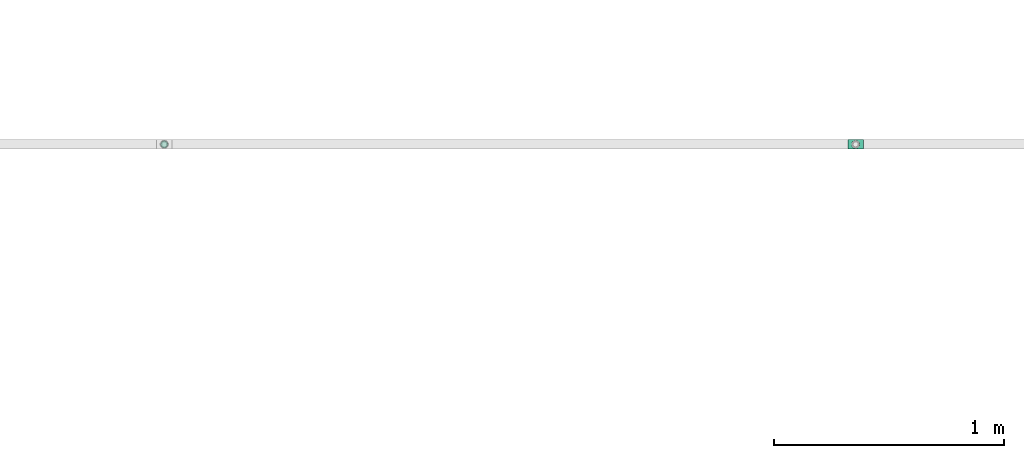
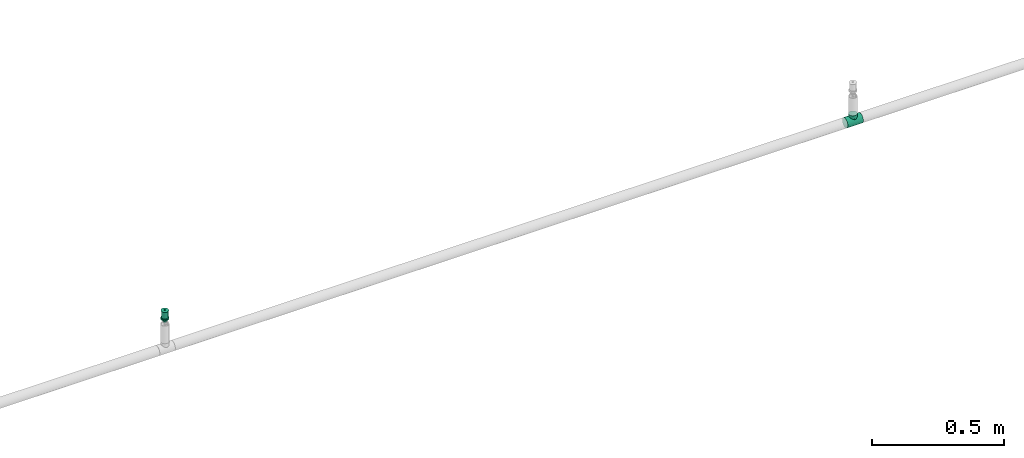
# One storey, part 85 of 94: 1 flow fitting, 1 flow terminal.
"""IFC2X3 building model written with IfcOpenShell, lengths in millimetres."""

import ifcopenshell
import ifcopenshell.guid

model = None  # the IFC model being written
_history = None  # IfcOwnerHistory: only IFC2X3 demands one
_inside = {}  # id of a spatial element -> (the spatial element, [elements in it])
_under = {}  # id of a project, library or spatial element -> (it, [spatial elements below it])
_declared = {}  # id of a project -> (the project, [libraries it declares])
_typed = {}  # id of a type object -> (the type object, [elements of that type])
_made_of = {}  # id of a material, layer set ... -> (it, [elements and type objects made of it])


def new_model(schema):
    """Start an empty IFC model of exactly this schema.

    Asked for "IFC4X3", IfcOpenShell would pick the latest addendum, in which some entities
    have other attributes; the version numbers below select the first issue.
    IFC2X3 requires an IfcOwnerHistory on every rooted entity: one is made here for all.
    """
    global model, _history
    if schema == "IFC4X3":
        model = ifcopenshell.file(schema_version=(4, 3, 0, 0))
    else:
        model = ifcopenshell.file(schema=schema)
    _inside.clear()
    _under.clear()
    _declared.clear()
    _typed.clear()
    _made_of.clear()
    _history = None
    if model.schema == "IFC2X3":
        org = make("IfcOrganization", Name="unknown")
        user = make(
            "IfcPersonAndOrganization",
            ThePerson=make("IfcPerson", FamilyName="unknown"),
            TheOrganization=org,
        )
        app = make(
            "IfcApplication",
            ApplicationDeveloper=org,
            Version="unknown",
            ApplicationFullName="unknown",
            ApplicationIdentifier="unknown",
        )
        _history = make(
            "IfcOwnerHistory",
            OwningUser=user,
            OwningApplication=app,
            ChangeAction="ADDED",
            CreationDate=0,
        )
    return model


def make(cls, **values):
    """One entity of the class cls with the attributes given. An attribute that is None is left unset."""
    return model.create_entity(
        cls, **{name: value for name, value in values.items() if value is not None}
    )


def entity(cls, *values):
    """Any entity or typed value of the class cls, its attributes in the order of the schema. None: left unset."""
    e = model.create_entity(cls)
    for i, value in enumerate(values):
        if value is not None:
            e[i] = value
    return e


def rooted(cls, **values):
    """An entity with a GlobalId (a new one), such as an element, a storey or a relation."""
    return make(cls, GlobalId=ifcopenshell.guid.new(), OwnerHistory=_history, **values)


def si_unit(unit_type, name, prefix=None):
    """IfcSIUnit, for example si_unit("LENGTHUNIT", "METRE", prefix="MILLI")."""
    return make("IfcSIUnit", UnitType=unit_type, Prefix=prefix, Name=name)


def converted_unit(unit_type, name, factor, base, dimensions=None, offset=None):
    """IfcConversionBasedUnit, such as the inch: factor (a typed value) times the base unit."""
    return make(
        "IfcConversionBasedUnit"
        if offset is None
        else "IfcConversionBasedUnitWithOffset",
        ConversionOffset=offset,
        Dimensions=None
        if dimensions is None
        else entity("IfcDimensionalExponents", *dimensions),
        UnitType=unit_type,
        Name=name,
        ConversionFactor=make(
            "IfcMeasureWithUnit", ValueComponent=factor, UnitComponent=base
        ),
    )


def derived_unit(unit_type, elements):
    """IfcDerivedUnit: a product of units, each with its exponent."""
    return make(
        "IfcDerivedUnit",
        Elements=[
            make("IfcDerivedUnitElement", Unit=unit, Exponent=power)
            for unit, power in elements
        ],
        UnitType=unit_type,
    )


def assignment(units):
    """IfcUnitAssignment: the units of a project."""
    return None if units is None else make("IfcUnitAssignment", Units=units)


def point(xyz):
    """IfcCartesianPoint."""
    return None if xyz is None else make("IfcCartesianPoint", Coordinates=xyz)


def direction(xyz):
    """IfcDirection."""
    return None if xyz is None else make("IfcDirection", DirectionRatios=xyz)


def frame(location, z_axis=None, x_axis=None):
    """IfcAxis2Placement3D, a coordinate frame: its origin and axes. An axis left out is left unset."""
    return make(
        "IfcAxis2Placement3D",
        Location=point(location),
        Axis=direction(z_axis),
        RefDirection=direction(x_axis),
    )


def origin_with_axes():
    """The frame at (0, 0, 0) with the z axis (0, 0, 1) and the x axis (1, 0, 0) written out."""
    return frame((0.0, 0.0, 0.0), z_axis=(0.0, 0.0, 1.0), x_axis=(1.0, 0.0, 0.0))


def place(relative_to, where):
    """IfcLocalPlacement: puts the frame where relative to a parent placement (None: the world)."""
    return make(
        "IfcLocalPlacement", PlacementRelTo=relative_to, RelativePlacement=where
    )


def context(
    kind, dimensions, precision=None, world=None, true_north=None, identifier=None
):
    """IfcGeometricRepresentationContext, for example the 3D "Model" context."""
    return make(
        "IfcGeometricRepresentationContext",
        ContextIdentifier=identifier,
        ContextType=kind,
        CoordinateSpaceDimension=dimensions,
        Precision=precision,
        WorldCoordinateSystem=world,
        TrueNorth=true_north,
    )


def subcontext(parent, identifier, kind, view, scale=None):
    """IfcGeometricRepresentationSubContext, for example "Body" below "Model"."""
    return make(
        "IfcGeometricRepresentationSubContext",
        ContextIdentifier=identifier,
        ContextType=kind,
        ParentContext=parent,
        TargetScale=scale,
        TargetView=view,
    )


def project(units=None, contexts=None):
    """IfcProject with its units and contexts."""
    return rooted(
        "IfcProject",
        Name="project",
        RepresentationContexts=contexts,
        UnitsInContext=assignment(units),
    )


def spatial(cls, under=None, at=None, **own):
    """A site, building, storey or space (cls), placed at a placement, below another one or the project."""
    s = rooted(cls, ObjectPlacement=at, **own)
    if under is not None:
        _under.setdefault(under.id(), (under, []))[1].append(s)
    return s


def faces_of(points, faces, orient=None, outer=None):
    """IfcFace entities. A face is a list of loops; a loop is a list of indices into points, from 0.

    orient and outer hold one flag for each loop. By default every Orientation is true, the
    first loop of a face is its IfcFaceOuterBound and the others are IfcFaceBound.
    """
    made = []
    for i, loops in enumerate(faces):
        bounds = []
        for j, loop in enumerate(loops):
            is_outer = j == 0 if outer is None else outer[i][j]
            bounds.append(
                make(
                    "IfcFaceOuterBound" if is_outer else "IfcFaceBound",
                    Bound=make("IfcPolyLoop", Polygon=[points[k] for k in loop]),
                    Orientation=True if orient is None else orient[i][j],
                )
            )
        made.append(make("IfcFace", Bounds=bounds))
    return made


def open_shell(faces, orient=None, outer=None):
    """The faces of one IfcOpenShell. surface_model builds it on its shared points."""
    return ("IfcOpenShell", faces, orient, outer)


def surface_model(cls, points, shells):
    """IfcFaceBasedSurfaceModel or IfcShellBasedSurfaceModel (cls): surfaces that need not close."""
    shared = [point(p) for p in points]
    made = [make(c, CfsFaces=faces_of(shared, fs, o, b)) for c, fs, o, b in shells]
    if cls == "IfcFaceBasedSurfaceModel":
        return make(cls, FbsmFaces=made)
    return make(cls, SbsmBoundary=made)


def shape(context_of_items, identifier, shape_type, items):
    """IfcShapeRepresentation: the items that make up one representation, for example the "Body"."""
    return make(
        "IfcShapeRepresentation",
        ContextOfItems=context_of_items,
        RepresentationIdentifier=identifier,
        RepresentationType=shape_type,
        Items=items,
    )


def source(mapping_origin, context_of_items, identifier, shape_type, items):
    """IfcRepresentationMap: a shape defined once, which mapped items show again and again."""
    return make(
        "IfcRepresentationMap",
        MappingOrigin=mapping_origin,
        MappedRepresentation=shape(context_of_items, identifier, shape_type, items),
    )


def transform(
    local_origin,
    x_axis=None,
    y_axis=None,
    z_axis=None,
    scale=None,
    scale2=None,
    scale3=None,
    uniform=True,
):
    """IfcCartesianTransformationOperator3D, or its non-uniform kind. x_axis, y_axis, z_axis: its Axis1, 2, 3."""
    if uniform:
        return make(
            "IfcCartesianTransformationOperator3D",
            Axis1=direction(x_axis),
            Axis2=direction(y_axis),
            LocalOrigin=point(local_origin),
            Scale=scale,
            Axis3=direction(z_axis),
        )
    return make(
        "IfcCartesianTransformationOperator3DnonUniform",
        Axis1=direction(x_axis),
        Axis2=direction(y_axis),
        LocalOrigin=point(local_origin),
        Scale=scale,
        Axis3=direction(z_axis),
        Scale2=scale2,
        Scale3=scale3,
    )


def mapped(mapping_source, mapping_target):
    """IfcMappedItem: shows the shape of a source again, moved by a transform."""
    return make(
        "IfcMappedItem", MappingSource=mapping_source, MappingTarget=mapping_target
    )


def made_of(thing, what):
    """Note that an element or type object is made of a material, layer set ...; save() writes the relation."""
    if what is not None:
        _made_of.setdefault(what.id(), (what, []))[1].append(thing)
    return thing


def type_object(cls, material=None, **own):
    """A type object (cls), such as IfcWallType, which elements share."""
    return made_of(rooted(cls, **own), material)


def element(
    cls,
    number,
    at=None,
    inside=None,
    cuts=None,
    type_object=None,
    material=None,
    context=None,
    identifier="Body",
    shape_type=None,
    held_by="IfcProductDefinitionShape",
    body=None,
    shapes=None,
    **own,
):
    """One element of the class cls, such as IfcWall. Its Tag is "e" and its number.

    at: its placement. inside: the storey or other place that contains it. cuts: it is an
    opening in that element (IfcRelVoidsElement). A single representation is given by context,
    identifier, shape_type and body (its items); several are given by shapes. held_by: the class
    of the entity that holds the representations. save() writes the other relations.
    """
    e = rooted(cls, Tag="e%d" % number, ObjectPlacement=at, **own)
    if body is not None:
        shapes = [shape(context, identifier, shape_type, body)]
    if shapes is not None:
        e.Representation = make(held_by, Representations=shapes)
    if inside is not None:
        _inside.setdefault(inside.id(), (inside, []))[1].append(e)
    if cuts is not None:
        rooted(
            "IfcRelVoidsElement", RelatingBuildingElement=cuts, RelatedOpeningElement=e
        )
    if type_object is not None:
        _typed.setdefault(type_object.id(), (type_object, []))[1].append(e)
    return made_of(e, material)


def aggregate(whole, parts):
    """IfcRelAggregates: a whole, such as a stair, and the parts it consists of."""
    return rooted("IfcRelAggregates", RelatingObject=whole, RelatedObjects=parts)


def save(model, path):
    """Write the relations noted so far, then the file.

    IfcRelAggregates (storeys below a building ...), IfcRelContainedInSpatialStructure (elements
    in a storey), IfcRelDefinesByType, IfcRelAssociatesMaterial and IfcRelDeclares: one each for
    every whole, place, type object, material and project.
    """
    for whole, parts in _under.values():
        aggregate(whole, parts)
    for where, things in _inside.values():
        rooted(
            "IfcRelContainedInSpatialStructure",
            RelatedElements=things,
            RelatingStructure=where,
        )
    for kind, things in _typed.values():
        rooted("IfcRelDefinesByType", RelatedObjects=things, RelatingType=kind)
    for what, things in _made_of.values():
        rooted("IfcRelAssociatesMaterial", RelatedObjects=things, RelatingMaterial=what)
    for by, libraries in _declared.values():
        rooted("IfcRelDeclares", RelatingContext=by, RelatedDefinitions=libraries)
    model.write(path)


model = new_model("IFC2X3")

# Units and contexts
model_context = context("Model", 3, precision=0.01, world=frame((0.0, 4.29681676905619e-09, 0.0)), true_north=direction((4.01073788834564e-13, 1.0)))
plan_context = context("Plan", 3, precision=0.01, world=frame((0.0, 4.29681676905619e-09, 0.0)), true_north=direction((4.01073788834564e-13, 1.0)))
body_context = subcontext(model_context, "Body", "Model", "MODEL_VIEW")
ifc_project = project(units=[converted_unit("PLANEANGLEUNIT", "DEGREE", entity("IfcPositiveLengthMeasure", 0.0174532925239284), si_unit("PLANEANGLEUNIT", "RADIAN"), dimensions=[0, 0, 0, 0, 0, 0, 0]), si_unit("AREAUNIT", "SQUARE_METRE"), si_unit("LENGTHUNIT", "METRE", prefix="MILLI"), si_unit("MASSUNIT", "GRAM", prefix="KILO"), si_unit("POWERUNIT", "WATT"), si_unit("PRESSUREUNIT", "PASCAL"), si_unit("FORCEUNIT", "NEWTON", prefix="KILO"), si_unit("ELECTRICCURRENTUNIT", "AMPERE"), si_unit("THERMODYNAMICTEMPERATUREUNIT", "DEGREE_CELSIUS"), si_unit("TIMEUNIT", "SECOND"), si_unit("VOLUMEUNIT", "CUBIC_METRE"), derived_unit("LINEARVELOCITYUNIT", [(si_unit("LENGTHUNIT", "METRE"), 1), (si_unit("TIMEUNIT", "SECOND"), -1)]), derived_unit("VOLUMETRICFLOWRATEUNIT", [(si_unit("VOLUMEUNIT", "CUBIC_METRE"), 1), (si_unit("TIMEUNIT", "SECOND"), -1)]), derived_unit("THERMALTRANSMITTANCEUNIT", [(si_unit("POWERUNIT", "WATT"), 1), (si_unit("THERMODYNAMICTEMPERATUREUNIT", "KELVIN"), -1), (si_unit("AREAUNIT", "SQUARE_METRE"), -1)])], contexts=[model_context, plan_context])

# Site, building, storey
site_placement = place(None, frame((0.0, -4.29681676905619e-09, 0.0), z_axis=(0.0, 0.0, 1.0), x_axis=(1.0, 0.0, 0.0)))
site = spatial("IfcSite", under=ifc_project, at=site_placement, CompositionType="ELEMENT")
building_placement = place(site_placement, frame((0.0, 4.29681676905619e-09, 0.0), z_axis=(0.0, 0.0, 1.0), x_axis=(1.0, 0.0, 0.0)))
building = spatial("IfcBuilding", under=site, at=building_placement, Name="mc-building", CompositionType="ELEMENT")
storey_placement = place(building_placement, frame((0.0, 0.0, 200300.0), z_axis=(0.0, 0.0, 1.0), x_axis=(1.0, 0.0, 0.0)))
storey = spatial("IfcBuildingStorey", under=building, at=storey_placement, Name="Nivå C", CompositionType="ELEMENT", Elevation=200300.0)

# Flow fitting
pipe_fitting_type = type_object("IfcPipeFittingType", Name="magi_pipe_fe_tee_centric_90_NOR", PredefinedType="JUNCTION")
shared_shape_1 = source(origin_with_axes(), body_context, "Body", "SurfaceModel", [
    surface_model("IfcShellBasedSurfaceModel", [(-33.8, 0.0, -21.2), (-33.8, -5.48696, -20.47763), (-33.8, 5.48696, -20.47763), (-33.8, 10.6, -18.35974), (-33.8, 14.99066, -14.99066), (-33.8, -20.47763, 5.48696), (-33.8, 18.35974, -10.6), (-33.8, 10.6, 18.35974), (-33.8, -14.99066, -14.99066), (-33.8, -18.35974, -10.6), (-33.8, -10.6, -18.35974), (-33.8, -20.47763, -5.48696), (-33.8, -21.2, 0.0), (-33.8, 18.35974, 10.6), (-33.8, 20.47763, -5.48696), (-33.8, 20.47763, 5.48696), (-33.8, 21.2, 0.0), (-33.8, 14.99066, 14.99066), (-33.8, 5.48696, 20.47763), (-33.8, 0.0, 21.2), (-33.8, -18.35974, 10.6), (-33.8, -14.99066, 14.99066), (-33.8, -10.6, 18.35974), (-33.8, -5.48696, 20.47763), (33.8, 5.48696, -20.47763), (33.8, -5.48696, -20.47763), (33.8, 0.0, -21.2), (33.8, 14.99066, -14.99066), (33.8, 10.6, -18.35974), (33.8, 18.35974, -10.6), (33.8, 20.47763, -5.48696), (33.8, -21.2, 0.0), (33.8, -10.6, -18.35974), (33.8, -18.35974, -10.6), (33.8, -14.99066, -14.99066), (33.8, -20.47763, -5.48696), (33.8, -20.47763, 5.48696), (33.8, 21.2, 0.0), (33.8, 20.47763, 5.48696), (33.8, 18.35974, 10.6), (33.8, 10.6, 18.35974), (33.8, 14.99066, 14.99066), (33.8, 0.0, 21.2), (33.8, 5.48696, 20.47763), (33.8, -14.99066, 14.99066), (33.8, -18.35974, 10.6), (33.8, -10.6, 18.35974), (33.8, -5.48696, 20.47763), (16.9, -21.2, 0.0), (15.78624, -20.32327, 6.03364), (12.81343, -18.11115, 11.01935), (8.52479, -15.37862, 14.59239), (3.07939, -13.16482, 16.61708), (-16.9, -21.2, 0.0), (-15.78686, -20.32375, 6.032), (-8.52604, -15.37932, 14.59166), (-3.0848, -13.16609, 16.61608), (-12.81602, -18.11299, 11.01634), (3.07939, -13.16482, -16.61708), (12.81343, -18.11115, -11.01935), (8.52479, -15.37862, -14.59239), (15.78624, -20.32327, -6.03364), (-3.0848, -13.16609, -16.61608), (-8.52604, -15.37932, -14.59166), (-12.81602, -18.11299, -11.01634), (-15.78686, -20.32375, -6.032), (4.37404, -31.8, -16.32415), (-16.9, -31.8, 0.0), (0.0, -31.8, -16.9), (14.63583, -31.8, -8.45), (8.45, -31.8, -14.63583), (16.32415, -31.8, -4.37404), (11.9501, -31.8, -11.9501), (-11.9501, -31.8, -11.9501), (-8.45, -31.8, -14.63583), (-4.37404, -31.8, -16.32415), (-14.63583, -31.8, -8.45), (-16.32415, -31.8, -4.37404), (16.9, -31.8, 0.0), (8.45, -31.8, 14.63583), (16.32415, -31.8, 4.37404), (14.63583, -31.8, 8.45), (-8.45, -31.8, 14.63583), (11.9501, -31.8, 11.9501), (4.37404, -31.8, 16.32415), (-16.32415, -31.8, 4.37404), (-11.9501, -31.8, 11.9501), (-14.63583, -31.8, 8.45), (0.0, -31.8, 16.9), (-4.37404, -31.8, 16.32415), (-16.34343, -20.76188, 3.016), (16.34312, -20.76163, 3.01682), (-0.00271, -13.16546, 16.61658), (16.34312, -20.76163, -3.01682), (-0.00271, -13.16546, -16.61658), (-16.34343, -20.76188, -3.016)], [open_shell([[[0, 1, 2]], [[3, 2, 4]], [[5, 2, 1]], [[4, 2, 6]], [[6, 2, 7]], [[8, 9, 10]], [[1, 10, 9]], [[9, 11, 1]], [[12, 1, 11]], [[5, 1, 12]], [[13, 14, 6]], [[13, 15, 16]], [[6, 7, 13]], [[5, 7, 2]], [[17, 13, 7]], [[18, 7, 19]], [[20, 21, 5]], [[22, 5, 21]], [[23, 19, 22]], [[7, 5, 22]], [[22, 19, 7]], [[16, 14, 13]], [[24, 25, 26]], [[27, 24, 28]], [[29, 30, 24]], [[29, 24, 27]], [[31, 24, 30]], [[32, 33, 34]], [[33, 32, 25]], [[33, 31, 35]], [[31, 33, 25]], [[25, 24, 31]], [[30, 36, 31]], [[37, 38, 39]], [[37, 39, 40]], [[37, 40, 36]], [[40, 39, 41]], [[42, 40, 43]], [[36, 44, 45]], [[44, 36, 46]], [[46, 42, 47]], [[46, 36, 40]], [[40, 42, 46]], [[37, 36, 30]], [[31, 36, 48]], [[49, 48, 36]], [[36, 45, 49]], [[45, 44, 50]], [[51, 50, 44]], [[52, 51, 44]], [[44, 46, 52]], [[45, 50, 49]], [[53, 54, 5]], [[5, 12, 53]], [[54, 20, 5]], [[55, 56, 21]], [[20, 57, 21]], [[57, 20, 54]], [[21, 57, 55]], [[56, 22, 21]], [[52, 22, 56]], [[19, 47, 42]], [[23, 46, 47]], [[18, 42, 43]], [[39, 38, 15]], [[17, 40, 41]], [[13, 41, 39]], [[43, 40, 7]], [[16, 38, 37]], [[22, 46, 23]], [[23, 47, 19]], [[18, 19, 42]], [[43, 7, 18]], [[7, 40, 17]], [[13, 17, 41]], [[15, 13, 39]], [[38, 16, 15]], [[46, 22, 52]], [[6, 30, 29]], [[14, 37, 30]], [[4, 29, 27]], [[26, 25, 1]], [[2, 28, 24]], [[0, 24, 26]], [[27, 28, 3]], [[10, 25, 32]], [[16, 37, 14]], [[14, 30, 6]], [[4, 6, 29]], [[27, 3, 4]], [[3, 28, 2]], [[0, 2, 24]], [[1, 0, 26]], [[25, 10, 1]], [[32, 58, 10]], [[34, 59, 60]], [[59, 34, 33]], [[60, 58, 34]], [[34, 58, 32]], [[35, 31, 48]], [[35, 61, 33]], [[61, 35, 48]], [[33, 61, 59]], [[62, 63, 8]], [[8, 64, 9]], [[64, 8, 63]], [[62, 8, 10]], [[65, 53, 11]], [[65, 11, 9]], [[11, 53, 12]], [[65, 9, 64]], [[58, 62, 10]], [[66, 67, 68]], [[69, 66, 70]], [[69, 71, 66]], [[69, 70, 72]], [[67, 66, 71]], [[68, 73, 74]], [[74, 75, 68]], [[76, 67, 77]], [[73, 68, 76]], [[67, 76, 68]], [[71, 78, 67]], [[79, 78, 80]], [[79, 80, 81]], [[82, 67, 79]], [[79, 81, 83]], [[82, 79, 84]], [[85, 86, 87]], [[86, 85, 82]], [[82, 88, 89]], [[85, 67, 82]], [[84, 88, 82]], [[79, 67, 78]], [[85, 90, 67]], [[57, 87, 86]], [[85, 87, 54]], [[86, 82, 55]], [[85, 54, 90]], [[90, 53, 67]], [[54, 87, 57]], [[91, 49, 80]], [[55, 89, 56]], [[55, 57, 86]], [[88, 52, 92]], [[55, 82, 89]], [[52, 88, 84]], [[79, 51, 84]], [[50, 83, 81]], [[83, 51, 79]], [[81, 80, 49]], [[83, 50, 51]], [[51, 52, 84]], [[78, 91, 80]], [[49, 50, 81]], [[91, 78, 48]], [[88, 56, 89]], [[92, 56, 88]], [[71, 93, 78]], [[59, 69, 72]], [[71, 69, 61]], [[72, 70, 60]], [[93, 48, 78]], [[61, 69, 59]], [[60, 66, 58]], [[60, 59, 72]], [[68, 62, 94]], [[60, 70, 66]], [[95, 67, 53]], [[95, 65, 77]], [[71, 61, 93]], [[75, 62, 68]], [[65, 76, 77]], [[73, 76, 64]], [[68, 58, 66]], [[75, 63, 62]], [[63, 75, 74]], [[74, 73, 63]], [[63, 73, 64]], [[64, 76, 65]], [[67, 95, 77]], [[94, 58, 68]]])]),
])
flow_fitting_placement = place(storey_placement, frame((527498.12395, 418699.60987, 2850.0), z_axis=(0.0, 1.0, 0.0), x_axis=(1.0, 0.0, 0.0)))
element("IfcFlowFitting", 1, at=flow_fitting_placement, inside=storey, type_object=pipe_fitting_type, Name="magi_pipe_fe_tee_centric_90_NOR", context=body_context, shape_type="MappedRepresentation", body=[
    mapped(shared_shape_1, transform((0.0, 0.0, 0.0), scale=1.0)),
])

# Flow terminal
fire_suppression_terminal_type = type_object("IfcFireSuppressionTerminalType", Name="68DGR-STD-STÅENDE", PredefinedType="NOTDEFINED")
shared_shape_2 = source(origin_with_axes(), body_context, "Body", "SurfaceModel", [
    surface_model("IfcShellBasedSurfaceModel", [(12.55704, 3.36465, 21.14766), (13.0, 0.0, 21.14766), (12.55704, -3.36465, 21.14766), (-12.55704, -3.36465, 21.14766), (-11.25833, -6.5, 21.14766), (-11.25833, -6.5, 51.0), (3.36465, -12.55704, 51.0), (3.36465, -12.55704, 21.14766), (6.5, -11.25833, 21.14766), (9.19239, -9.19239, 21.14766), (11.25833, -6.5, 21.14766), (9.19239, -9.19239, 51.0), (6.5, -11.25833, 51.0), (11.25833, -6.5, 51.0), (12.55704, -3.36465, 51.0), (13.0, 0.0, 51.0), (9.19239, 9.19239, 51.0), (11.25833, 6.5, 21.14766), (9.19239, 9.19239, 21.14766), (11.25833, 6.5, 51.0), (12.55704, 3.36465, 51.0), (6.5, 11.25833, 51.0), (6.5, 11.25833, 21.14766), (3.36465, 12.55704, 21.14766), (3.36465, 12.55704, 51.0), (-11.25833, 6.5, 51.0), (-11.25833, 6.5, 21.14766), (-12.55704, 3.36465, 21.14766), (0.0, -2.5, 51.0), (-2.5, 0.0, 51.0), (0.0, 2.5, 51.0), (2.5, 0.0, 51.0), (11.31371, 11.31371, 53.0), (-11.31371, 11.31371, 53.0), (-11.31371, -11.31371, 53.0), (11.31371, -11.31371, 53.0), (1.62635, 1.62635, 51.0), (2.16506, 1.25, 51.0), (1.99186, 1.15, 51.0), (-1.76777, 1.76777, 51.0), (-1.25, 2.16506, 51.0), (-1.62635, 1.62635, 51.0), (1.99186, -1.15, 51.0), (2.16506, -1.25, 51.0), (1.62635, -1.62635, 51.0), (-1.62635, -1.62635, 51.0), (-1.25, -2.16506, 51.0), (-1.76777, -1.76777, 51.0), (0.0, 7.3, 0.0), (1.94114, 7.24444, 0.0), (1.88938, 7.05126, 0.0), (5.16188, 5.16188, 0.0), (6.49519, 3.75, 0.0), (6.32199, 3.65, 0.0), (-5.3033, 5.3033, 0.0), (-3.75, 6.49519, 0.0), (-5.16188, 5.16188, 0.0), (6.32199, -3.65, 0.0), (6.49519, -3.75, 0.0), (5.16188, -5.16188, 0.0), (1.88938, -7.05126, 0.0), (1.94114, -7.24444, 0.0), (0.0, -7.3, 0.0), (-5.16188, -5.16188, 0.0), (-3.75, -6.49519, 0.0), (-5.3033, -5.3033, 0.0), (-3.36465, 12.55704, 51.0), (-6.5, 11.25833, 51.0), (0.0, 13.0, 51.0), (-9.19239, 9.19239, 51.0), (0.0, -13.0, 51.0), (-9.19239, -9.19239, 51.0), (-12.55704, -3.36465, 51.0), (-6.5, -11.25833, 51.0), (-3.36465, -12.55704, 51.0), (-7.5, 0.0, -0.1), (-7.24444, 1.94114, 0.1), (-7.24444, 1.94114, -0.1), (-6.49519, 3.75, 0.1), (-6.49519, 3.75, -0.1), (-3.75, 6.49519, -0.1), (-5.3033, 5.3033, -0.1), (-3.75, 6.49519, 0.1), (-5.3033, 5.3033, 0.1), (-1.94114, 7.24444, -0.1), (-1.94114, 7.24444, 0.1), (-7.5, 0.0, 0.1), (0.0, 7.5, 0.1), (0.0, 7.5, -0.1), (1.94114, 7.24444, 0.1), (1.94114, 7.24444, -0.1), (3.75, 6.49519, 0.1), (3.75, 6.49519, -0.1), (6.49519, 3.75, -0.1), (5.3033, 5.3033, -0.1), (6.49519, 3.75, 0.1), (5.3033, 5.3033, 0.1), (7.24444, 1.94114, -0.1), (7.24444, 1.94114, 0.1), (7.5, 0.0, 0.1), (7.5, 0.0, -0.1), (-7.24444, -1.94114, 0.1), (7.24444, -1.94114, 0.1), (5.3033, -5.3033, 0.1), (6.49519, -3.75, 0.1), (-6.49519, -3.75, 0.1), (0.0, -7.5, 0.1), (1.94114, -7.24444, 0.1), (3.75, -6.49519, 0.1), (-3.75, -6.49519, 0.1), (-1.94114, -7.24444, 0.1), (-5.3033, -5.3033, 0.1), (0.0, -7.5, -0.1), (-6.49519, -3.75, -0.1), (1.94114, -7.24444, -0.1), (3.75, -6.49519, -0.1), (5.3033, -5.3033, -0.1), (7.24444, -1.94114, -0.1), (6.49519, -3.75, -0.1), (-3.75, -6.49519, -0.1), (-5.3033, -5.3033, -0.1), (-1.94114, -7.24444, -0.1), (-7.24444, -1.94114, -0.1), (16.0, 0.0, 53.0), (0.0, -16.0, 53.0), (-16.0, 0.0, 53.0), (0.0, 16.0, 53.0), (0.64705, 2.41481, 57.0), (0.0, 2.5, 57.0), (1.25, 2.16506, 57.0), (-2.5, 0.0, 57.0), (1.76777, 1.76777, 57.0), (2.41481, 0.64705, 57.0), (2.16506, 1.25, 57.0), (-0.64705, 2.41481, 57.0), (-1.25, 2.16506, 57.0), (-1.76777, 1.76777, 57.0), (-2.16506, 1.25, 57.0), (-2.41481, 0.64705, 57.0), (2.5, 0.0, 57.0), (1.76777, -1.76777, 57.0), (2.16506, -1.25, 57.0), (2.41481, -0.64705, 57.0), (-2.41481, -0.64705, 57.0), (0.64705, -2.41481, 57.0), (1.25, -2.16506, 57.0), (0.0, -2.5, 57.0), (-1.76777, -1.76777, 57.0), (-2.16506, -1.25, 57.0), (-1.25, -2.16506, 57.0), (-0.64705, -2.41481, 57.0), (1.15, -1.99186, 51.0), (1.76777, -1.76777, 51.0), (1.25, -2.16506, 51.0), (0.59528, -2.22163, 51.0), (0.0, -2.3, 51.0), (0.64705, -2.41481, 51.0), (2.22163, -0.59528, 51.0), (2.3, 0.0, 51.0), (2.41481, -0.64705, 51.0), (-0.64705, -2.41481, 51.0), (-0.59528, -2.22163, 51.0), (-1.15, -1.99186, 51.0), (-2.16506, -1.25, 51.0), (-1.99186, -1.15, 51.0), (-2.22163, -0.59528, 51.0), (-2.3, 0.0, 51.0), (-2.41481, -0.64705, 51.0), (2.22163, 0.59528, 51.0), (2.41481, 0.64705, 51.0), (1.76777, 1.76777, 51.0), (1.15, 1.99186, 51.0), (1.25, 2.16506, 51.0), (0.59528, 2.22163, 51.0), (0.0, 2.3, 51.0), (0.64705, 2.41481, 51.0), (-1.99186, 1.15, 51.0), (-2.16506, 1.25, 51.0), (-2.41481, 0.64705, 51.0), (-2.22163, 0.59528, 51.0), (-0.64705, 2.41481, 51.0), (-0.59528, 2.22163, 51.0), (-1.15, 1.99186, 51.0), (-2.22163, 0.59528, 56.8), (-1.99186, 1.15, 56.8), (-1.15, 1.99186, 56.8), (-1.62635, 1.62635, 56.8), (-0.59528, 2.22163, 56.8), (-2.3, 0.0, 56.8), (0.0, 2.3, 56.8), (0.59528, 2.22163, 56.8), (1.15, 1.99186, 56.8), (1.99186, 1.15, 56.8), (1.62635, 1.62635, 56.8), (2.22163, 0.59528, 56.8), (2.3, 0.0, 56.8), (2.22163, -0.59528, 56.8), (1.99186, -1.15, 56.8), (1.62635, -1.62635, 56.8), (1.15, -1.99186, 56.8), (0.59528, -2.22163, 56.8), (0.0, -2.3, 56.8), (-1.99186, -1.15, 56.8), (-2.22163, -0.59528, 56.8), (-1.62635, -1.62635, 56.8), (-0.59528, -2.22163, 56.8), (-1.15, -1.99186, 56.8), (8.0, -13.85641, 13.0), (4.1411, -15.45481, 13.0), (0.0, -16.0, 13.0), (-4.1411, -15.45481, 13.0), (15.45481, -4.1411, 13.0), (13.85641, -8.0, 13.0), (11.31371, -11.31371, 13.0), (-16.0, 0.0, 13.0), (-8.0, -13.85641, 13.0), (-11.31371, -11.31371, 13.0), (-13.85641, -8.0, 13.0), (-15.45481, -4.1411, 13.0), (15.45481, 4.1411, 13.0), (4.1411, 15.45481, 13.0), (13.85641, 8.0, 13.0), (8.0, 13.85641, 13.0), (11.31371, 11.31371, 13.0), (-15.45481, 4.1411, 13.0), (-11.31371, 11.31371, 13.0), (-8.0, 13.85641, 13.0), (-13.85641, 8.0, 13.0), (-4.1411, 15.45481, 13.0), (0.0, 16.0, 13.0), (16.0, 0.0, 13.0), (7.05126, 1.88938, 12.8), (1.88938, 7.05126, 12.8), (3.65, 6.32199, 12.8), (6.32199, 3.65, 12.8), (5.16188, 5.16188, 12.8), (7.3, 0.0, 12.8), (0.0, 7.3, 12.8), (-3.65, 6.32199, 12.8), (-1.88938, 7.05126, 12.8), (-5.16188, 5.16188, 12.8), (-7.05126, 1.88938, 12.8), (-6.32199, 3.65, 12.8), (7.05126, -1.88938, 12.8), (0.0, -7.3, 12.8), (6.32199, -3.65, 12.8), (3.65, -6.32199, 12.8), (5.16188, -5.16188, 12.8), (1.88938, -7.05126, 12.8), (-7.3, 0.0, 12.8), (-6.32199, -3.65, 12.8), (-7.05126, -1.88938, 12.8), (-1.88938, -7.05126, 12.8), (-5.16188, -5.16188, 12.8), (-3.65, -6.32199, 12.8), (-7.05126, 1.88938, 0.0), (-7.3, 0.0, 0.0), (-6.32199, 3.65, 0.0), (-3.65, 6.32199, 0.0), (-1.88938, 7.05126, 0.0), (3.65, 6.32199, 0.0), (7.05126, 1.88938, 0.0), (7.3, 0.0, 0.0), (3.75, 6.49519, 13.0), (1.94114, 7.24444, 13.0), (7.5, 0.0, 13.0), (5.3033, 5.3033, 13.0), (7.24444, 1.94114, 13.0), (6.49519, 3.75, 13.0), (-5.3033, 5.3033, 13.0), (-7.24444, -1.94114, 13.0), (-1.94114, 7.24444, 13.0), (-3.75, 6.49519, 13.0), (0.0, 7.5, 13.0), (-6.49519, 3.75, 13.0), (-7.24444, 1.94114, 13.0), (7.24444, -1.94114, 13.0), (5.3033, -5.3033, 13.0), (6.49519, -3.75, 13.0), (-6.49519, -3.75, 13.0), (0.0, -7.5, 13.0), (1.94114, -7.24444, 13.0), (3.75, -6.49519, 13.0), (-7.5, 0.0, 13.0), (-3.75, -6.49519, 13.0), (-1.94114, -7.24444, 13.0), (-5.3033, -5.3033, 13.0), (3.65, -6.32199, 0.0), (5.3033, -5.3033, 0.0), (3.75, -6.49519, 0.0), (0.0, -7.5, 0.0), (7.05126, -1.88938, 0.0), (7.24444, -1.94114, 0.0), (7.5, 0.0, 0.0), (-1.94114, -7.24444, 0.0), (-1.88938, -7.05126, 0.0), (-3.65, -6.32199, 0.0), (-6.49519, -3.75, 0.0), (-6.32199, -3.65, 0.0), (-7.05126, -1.88938, 0.0), (-7.24444, -1.94114, 0.0), (-7.5, 0.0, 0.0), (7.24444, 1.94114, 0.0), (5.3033, 5.3033, 0.0), (3.75, 6.49519, 0.0), (0.0, 7.5, 0.0), (-6.49519, 3.75, 0.0), (-7.24444, 1.94114, 0.0), (-1.94114, 7.24444, 0.0), (-12.55704, 3.36465, 51.0), (-13.0, 0.0, 51.0), (0.0, -13.0, 21.14766), (-3.36465, -12.55704, 21.14766), (-6.5, -11.25833, 21.14766), (-9.19239, -9.19239, 21.14766), (-13.0, 0.0, 21.14766), (-9.19239, 9.19239, 21.14766), (-6.5, 11.25833, 21.14766), (-3.36465, 12.55704, 21.14766), (0.0, 13.0, 21.14766), (11.31371, 11.31371, 19.0), (8.0, 13.85641, 19.0), (4.1411, 15.45481, 19.0), (-8.0, 13.85641, 19.0), (16.0, 0.0, 19.0), (15.45481, 4.1411, 19.0), (13.85641, 8.0, 19.0), (-4.1411, 15.45481, 19.0), (0.0, 16.0, 19.0), (-11.31371, 11.31371, 19.0), (-13.85641, 8.0, 19.0), (-15.45481, 4.1411, 19.0), (15.45481, -4.1411, 19.0), (11.31371, -11.31371, 19.0), (13.85641, -8.0, 19.0), (-16.0, 0.0, 19.0), (0.0, -16.0, 19.0), (4.1411, -15.45481, 19.0), (8.0, -13.85641, 19.0), (-13.85641, -8.0, 19.0), (-11.31371, -11.31371, 19.0), (-15.45481, -4.1411, 19.0), (-8.0, -13.85641, 19.0), (-4.1411, -15.45481, 19.0)], [open_shell([[[0, 1, 2]], [[3, 4, 5]], [[6, 7, 8]], [[9, 10, 11]], [[9, 11, 12]], [[10, 13, 11]], [[14, 13, 2]], [[1, 15, 14]], [[16, 17, 18]], [[0, 19, 20]], [[20, 15, 1]], [[21, 16, 18]], [[22, 23, 24]], [[16, 19, 17]], [[25, 26, 27]], [[28, 29, 30]], [[30, 31, 28]], [[31, 30, 32]], [[33, 30, 29]], [[29, 28, 34]], [[35, 28, 31]], [[36, 37, 38]], [[39, 40, 41]], [[42, 43, 44]], [[45, 46, 47]], [[48, 49, 50]], [[51, 52, 53]], [[54, 55, 56]], [[57, 58, 59]], [[60, 61, 62]], [[63, 64, 65]], [[66, 67, 68]], [[67, 24, 68]], [[69, 25, 67]], [[15, 20, 14]], [[70, 6, 12]], [[5, 71, 72]], [[73, 74, 71]], [[72, 71, 74]], [[75, 76, 77]], [[77, 78, 79]], [[80, 81, 82]], [[83, 81, 79]], [[84, 80, 85]], [[76, 78, 77]], [[75, 86, 76]], [[80, 82, 85]], [[82, 81, 83]], [[79, 78, 83]], [[84, 85, 87]], [[87, 88, 84]], [[88, 89, 90]], [[90, 91, 92]], [[93, 94, 95]], [[96, 94, 92]], [[97, 93, 98]], [[91, 96, 92]], [[90, 89, 91]], [[97, 98, 99]], [[98, 93, 95]], [[94, 96, 95]], [[97, 99, 100]], [[87, 89, 88]], [[91, 89, 99]], [[96, 91, 98]], [[91, 99, 98]], [[95, 96, 98]], [[89, 83, 101]], [[85, 82, 87]], [[83, 87, 82]], [[78, 76, 83]], [[89, 87, 83]], [[76, 101, 83]], [[102, 99, 89]], [[103, 104, 102]], [[89, 105, 103]], [[103, 106, 107]], [[108, 103, 107]], [[106, 103, 105]], [[89, 101, 105]], [[101, 76, 86]], [[109, 110, 111]], [[105, 111, 110]], [[106, 105, 110]], [[103, 102, 89]], [[112, 113, 114]], [[115, 114, 116]], [[117, 118, 116]], [[113, 116, 114]], [[116, 113, 117]], [[119, 120, 121]], [[113, 121, 120]], [[121, 113, 112]], [[113, 122, 117]], [[75, 77, 122]], [[100, 117, 122]], [[100, 81, 97]], [[93, 97, 90]], [[90, 92, 94]], [[93, 90, 94]], [[90, 97, 81]], [[79, 81, 77]], [[77, 81, 122]], [[84, 88, 80]], [[81, 80, 88]], [[81, 88, 90]], [[100, 122, 81]], [[100, 102, 117]], [[117, 104, 118]], [[115, 116, 108]], [[103, 116, 118]], [[114, 115, 107]], [[102, 104, 117]], [[100, 99, 102]], [[115, 108, 107]], [[108, 116, 103]], [[118, 104, 103]], [[114, 107, 106]], [[106, 112, 114]], [[112, 110, 121]], [[121, 109, 119]], [[113, 120, 105]], [[111, 120, 119]], [[122, 113, 101]], [[109, 111, 119]], [[121, 110, 109]], [[122, 101, 86]], [[101, 113, 105]], [[120, 111, 105]], [[122, 86, 75]], [[106, 110, 112]], [[31, 123, 35]], [[35, 124, 28]], [[124, 34, 28]], [[29, 34, 125]], [[33, 32, 126]], [[33, 125, 124]], [[124, 32, 33]], [[124, 35, 123]], [[124, 125, 34]], [[123, 32, 124]], [[29, 125, 33]], [[33, 126, 30]], [[126, 32, 30]], [[31, 32, 123]], [[127, 128, 129]], [[129, 130, 131]], [[132, 131, 130]], [[133, 131, 132]], [[130, 129, 128]], [[134, 135, 128]], [[136, 128, 135]], [[137, 138, 136]], [[128, 136, 130]], [[138, 130, 136]], [[139, 132, 130]], [[140, 141, 142]], [[143, 140, 139]], [[144, 140, 143]], [[145, 140, 144]], [[146, 144, 147]], [[139, 130, 143]], [[143, 148, 144]], [[149, 150, 147]], [[144, 148, 147]], [[146, 147, 150]], [[140, 142, 139]], [[151, 152, 153]], [[154, 151, 153]], [[155, 154, 156]], [[153, 156, 154]], [[28, 155, 156]], [[44, 152, 151]], [[157, 158, 159]], [[31, 159, 158]], [[43, 157, 159]], [[152, 44, 43]], [[157, 43, 42]], [[160, 161, 28]], [[161, 155, 28]], [[162, 161, 160]], [[160, 46, 162]], [[162, 46, 45]], [[47, 163, 164]], [[165, 164, 163]], [[45, 47, 164]], [[166, 165, 167]], [[163, 167, 165]], [[29, 166, 167]], [[168, 169, 31]], [[38, 169, 168]], [[169, 38, 37]], [[170, 37, 36]], [[171, 172, 170]], [[173, 172, 171]], [[174, 175, 173]], [[172, 173, 175]], [[30, 175, 174]], [[170, 36, 171]], [[39, 176, 177]], [[41, 176, 39]], [[178, 177, 176]], [[178, 179, 29]], [[176, 179, 178]], [[179, 166, 29]], [[180, 30, 181]], [[182, 180, 181]], [[182, 41, 40]], [[180, 182, 40]], [[181, 30, 174]], [[31, 158, 168]], [[29, 138, 178]], [[178, 137, 177]], [[40, 39, 135]], [[136, 39, 177]], [[180, 40, 134]], [[138, 137, 178]], [[29, 130, 138]], [[40, 135, 134]], [[135, 39, 136]], [[177, 137, 136]], [[180, 134, 128]], [[128, 30, 180]], [[30, 127, 175]], [[175, 129, 172]], [[37, 170, 133]], [[131, 170, 172]], [[169, 37, 132]], [[129, 131, 172]], [[175, 127, 129]], [[169, 132, 139]], [[132, 37, 133]], [[170, 131, 133]], [[169, 139, 31]], [[128, 127, 30]], [[179, 183, 166]], [[176, 184, 179]], [[185, 41, 182]], [[176, 41, 186]], [[187, 182, 181]], [[179, 184, 183]], [[183, 188, 166]], [[187, 185, 182]], [[186, 41, 185]], [[186, 184, 176]], [[189, 187, 181]], [[181, 174, 189]], [[173, 190, 174]], [[171, 191, 173]], [[192, 36, 38]], [[171, 36, 193]], [[194, 38, 168]], [[171, 193, 191]], [[191, 190, 173]], [[195, 194, 168]], [[192, 38, 194]], [[192, 193, 36]], [[158, 195, 168]], [[174, 190, 189]], [[31, 142, 159]], [[159, 141, 43]], [[153, 152, 145]], [[140, 152, 43]], [[156, 153, 144]], [[142, 141, 159]], [[31, 139, 142]], [[153, 145, 144]], [[145, 152, 140]], [[43, 141, 140]], [[156, 144, 146]], [[146, 28, 156]], [[28, 150, 160]], [[160, 149, 46]], [[163, 47, 148]], [[147, 47, 46]], [[167, 163, 143]], [[149, 147, 46]], [[160, 150, 149]], [[167, 143, 130]], [[143, 163, 148]], [[47, 147, 148]], [[167, 130, 29]], [[146, 150, 28]], [[190, 191, 193]], [[190, 193, 195]], [[194, 195, 193]], [[194, 193, 192]], [[190, 195, 186]], [[189, 185, 187]], [[185, 189, 186]], [[186, 183, 184]], [[186, 189, 190]], [[186, 196, 183]], [[186, 195, 196]], [[196, 197, 198]], [[196, 198, 199]], [[199, 200, 201]], [[199, 201, 196]], [[196, 201, 202]], [[188, 202, 203]], [[183, 202, 188]], [[204, 205, 206]], [[205, 204, 202]], [[201, 205, 202]], [[202, 183, 196]], [[157, 196, 158]], [[42, 197, 157]], [[199, 44, 151]], [[42, 44, 198]], [[200, 151, 154]], [[157, 197, 196]], [[196, 195, 158]], [[200, 199, 151]], [[198, 44, 199]], [[198, 197, 42]], [[201, 200, 154]], [[154, 155, 201]], [[161, 205, 155]], [[162, 206, 161]], [[202, 45, 164]], [[162, 45, 204]], [[203, 164, 165]], [[162, 204, 206]], [[206, 205, 161]], [[188, 203, 165]], [[202, 164, 203]], [[202, 204, 45]], [[166, 188, 165]], [[155, 205, 201]], [[207, 208, 209]], [[207, 209, 210]], [[211, 212, 213]], [[213, 207, 214]], [[211, 213, 214]], [[215, 216, 210]], [[217, 210, 216]], [[217, 218, 210]], [[218, 207, 210]], [[218, 214, 207]], [[214, 219, 211]], [[220, 219, 214]], [[221, 219, 220]], [[220, 222, 223]], [[221, 220, 223]], [[214, 224, 220]], [[225, 226, 227]], [[224, 227, 226]], [[228, 229, 226]], [[220, 224, 226]], [[226, 229, 220]], [[219, 230, 211]], [[231, 232, 233]], [[234, 233, 235]], [[231, 236, 232]], [[231, 233, 234]], [[232, 236, 237]], [[237, 238, 239]], [[238, 237, 240]], [[240, 241, 242]], [[240, 237, 236]], [[236, 241, 240]], [[236, 243, 241]], [[244, 243, 245]], [[246, 245, 247]], [[246, 248, 244]], [[246, 244, 245]], [[243, 244, 249]], [[249, 250, 251]], [[250, 249, 252]], [[253, 252, 254]], [[252, 253, 250]], [[249, 244, 252]], [[243, 249, 241]], [[255, 241, 256]], [[257, 242, 255]], [[238, 56, 258]], [[257, 56, 240]], [[239, 258, 259]], [[255, 242, 241]], [[241, 249, 256]], [[239, 238, 258]], [[240, 56, 238]], [[240, 242, 257]], [[237, 239, 259]], [[259, 48, 237]], [[50, 232, 48]], [[260, 233, 50]], [[234, 51, 53]], [[260, 51, 235]], [[231, 53, 261]], [[260, 235, 233]], [[233, 232, 50]], [[236, 231, 261]], [[234, 53, 231]], [[234, 235, 51]], [[262, 236, 261]], [[48, 232, 237]], [[263, 264, 265]], [[266, 263, 267]], [[263, 265, 267]], [[268, 266, 267]], [[264, 269, 270]], [[271, 272, 273]], [[269, 273, 272]], [[274, 275, 269]], [[264, 273, 269]], [[275, 270, 269]], [[276, 265, 264]], [[277, 278, 276]], [[264, 279, 277]], [[277, 280, 281]], [[282, 277, 281]], [[280, 277, 279]], [[264, 270, 279]], [[270, 275, 283]], [[284, 285, 286]], [[279, 286, 285]], [[280, 279, 285]], [[277, 276, 264]], [[287, 288, 289]], [[60, 287, 289]], [[290, 62, 61]], [[289, 61, 60]], [[59, 288, 287]], [[291, 262, 292]], [[293, 292, 262]], [[58, 291, 292]], [[288, 59, 58]], [[291, 58, 57]], [[294, 295, 290]], [[296, 295, 294]], [[294, 64, 296]], [[64, 63, 296]], [[295, 62, 290]], [[65, 297, 298]], [[299, 298, 297]], [[63, 65, 298]], [[256, 299, 300]], [[297, 300, 299]], [[301, 256, 300]], [[261, 302, 293]], [[53, 302, 261]], [[302, 53, 52]], [[303, 52, 51]], [[260, 304, 303]], [[50, 304, 260]], [[304, 50, 49]], [[305, 49, 48]], [[303, 51, 260]], [[54, 257, 306]], [[56, 257, 54]], [[307, 306, 257]], [[307, 255, 301]], [[257, 255, 307]], [[255, 256, 301]], [[308, 305, 259]], [[258, 308, 259]], [[55, 258, 56]], [[308, 258, 55]], [[259, 305, 48]], [[293, 262, 261]], [[301, 275, 307]], [[307, 274, 306]], [[55, 54, 272]], [[269, 54, 306]], [[308, 55, 271]], [[275, 274, 307]], [[301, 283, 275]], [[55, 272, 271]], [[272, 54, 269]], [[306, 274, 269]], [[308, 271, 273]], [[273, 305, 308]], [[305, 264, 49]], [[49, 263, 304]], [[52, 303, 268]], [[266, 303, 304]], [[302, 52, 267]], [[263, 266, 304]], [[49, 264, 263]], [[302, 267, 265]], [[267, 52, 268]], [[303, 266, 268]], [[302, 265, 293]], [[273, 264, 305]], [[293, 276, 292]], [[292, 278, 58]], [[289, 288, 282]], [[277, 288, 58]], [[61, 289, 281]], [[276, 278, 292]], [[293, 265, 276]], [[289, 282, 281]], [[282, 288, 277]], [[58, 278, 277]], [[61, 281, 280]], [[280, 290, 61]], [[290, 285, 294]], [[294, 284, 64]], [[297, 65, 279]], [[286, 65, 64]], [[300, 297, 270]], [[284, 286, 64]], [[294, 285, 284]], [[300, 270, 283]], [[270, 297, 279]], [[65, 286, 279]], [[300, 283, 301]], [[280, 285, 290]], [[291, 243, 262]], [[57, 245, 291]], [[246, 59, 287]], [[57, 59, 247]], [[248, 287, 60]], [[291, 245, 243]], [[243, 236, 262]], [[248, 246, 287]], [[247, 59, 246]], [[247, 245, 57]], [[244, 248, 60]], [[60, 62, 244]], [[295, 252, 62]], [[296, 254, 295]], [[250, 63, 298]], [[296, 63, 253]], [[251, 298, 299]], [[296, 253, 254]], [[254, 252, 295]], [[249, 251, 299]], [[250, 298, 251]], [[250, 253, 63]], [[256, 249, 299]], [[62, 252, 244]], [[16, 21, 24]], [[20, 16, 24]], [[24, 67, 72]], [[19, 16, 20]], [[24, 72, 20]], [[25, 72, 67]], [[309, 310, 25]], [[11, 13, 14]], [[72, 11, 20]], [[74, 12, 11]], [[12, 74, 70]], [[72, 25, 310]], [[72, 74, 11]], [[11, 14, 20]], [[8, 7, 311]], [[8, 311, 312]], [[2, 10, 9]], [[3, 9, 8]], [[3, 26, 9]], [[313, 314, 312]], [[3, 312, 314]], [[4, 3, 314]], [[3, 8, 312]], [[315, 26, 3]], [[2, 9, 26]], [[0, 2, 26]], [[17, 0, 18]], [[23, 22, 18]], [[0, 23, 18]], [[23, 0, 26]], [[316, 317, 26]], [[26, 315, 27]], [[318, 319, 317]], [[23, 26, 317]], [[23, 317, 319]], [[316, 26, 25]], [[318, 317, 67]], [[69, 317, 316]], [[319, 318, 66]], [[310, 309, 315]], [[27, 315, 309]], [[25, 27, 309]], [[25, 69, 316]], [[317, 69, 67]], [[67, 66, 318]], [[66, 68, 319]], [[22, 21, 18]], [[0, 17, 19]], [[1, 0, 20]], [[68, 24, 23]], [[24, 21, 22]], [[319, 68, 23]], [[1, 14, 2]], [[2, 13, 10]], [[6, 311, 7]], [[6, 8, 12]], [[12, 8, 9]], [[6, 70, 311]], [[313, 312, 74]], [[313, 73, 314]], [[71, 4, 314]], [[315, 3, 72]], [[70, 74, 312]], [[74, 73, 313]], [[73, 71, 314]], [[71, 5, 4]], [[3, 5, 72]], [[72, 310, 315]], [[311, 70, 312]], [[320, 321, 322]], [[320, 322, 323]], [[320, 324, 325]], [[326, 320, 325]], [[324, 320, 323]], [[327, 323, 328]], [[323, 322, 328]], [[329, 330, 323]], [[331, 323, 330]], [[323, 331, 324]], [[331, 332, 324]], [[333, 334, 332]], [[335, 333, 331]], [[336, 337, 338]], [[335, 338, 333]], [[338, 335, 336]], [[339, 340, 341]], [[335, 341, 340]], [[342, 343, 340]], [[335, 340, 343]], [[343, 336, 335]], [[332, 331, 333]], [[214, 331, 224]], [[224, 330, 227]], [[226, 225, 323]], [[329, 225, 227]], [[228, 226, 327]], [[331, 330, 224]], [[214, 335, 331]], [[226, 323, 327]], [[323, 225, 329]], [[227, 330, 329]], [[228, 327, 328]], [[328, 229, 228]], [[229, 322, 220]], [[220, 321, 222]], [[221, 223, 326]], [[320, 223, 222]], [[219, 221, 325]], [[321, 320, 222]], [[220, 322, 321]], [[219, 325, 324]], [[325, 221, 326]], [[223, 320, 326]], [[219, 324, 230]], [[328, 322, 229]], [[230, 332, 211]], [[211, 334, 212]], [[207, 213, 338]], [[333, 213, 212]], [[208, 207, 337]], [[332, 334, 211]], [[230, 324, 332]], [[207, 338, 337]], [[338, 213, 333]], [[212, 334, 333]], [[208, 337, 336]], [[336, 209, 208]], [[209, 343, 210]], [[210, 342, 215]], [[217, 216, 339]], [[340, 216, 215]], [[218, 217, 341]], [[342, 340, 215]], [[210, 343, 342]], [[218, 341, 335]], [[341, 217, 339]], [[216, 340, 339]], [[218, 335, 214]], [[336, 343, 209]]])]),
])
flow_terminal_placement = place(storey_placement, frame((524498.12395, 418699.60987, 2972.0), z_axis=(0.0, 0.0, 1.0), x_axis=(-1.0, 0.0, 0.0)))
element("IfcFlowTerminal", 2, at=flow_terminal_placement, inside=storey, type_object=fire_suppression_terminal_type, Name="68DGR-STD-STÅENDE", context=body_context, shape_type="MappedRepresentation", body=[
    mapped(shared_shape_2, transform((0.0, 0.0, 0.0), scale=1.0)),
])

save(model, "model.ifc")
